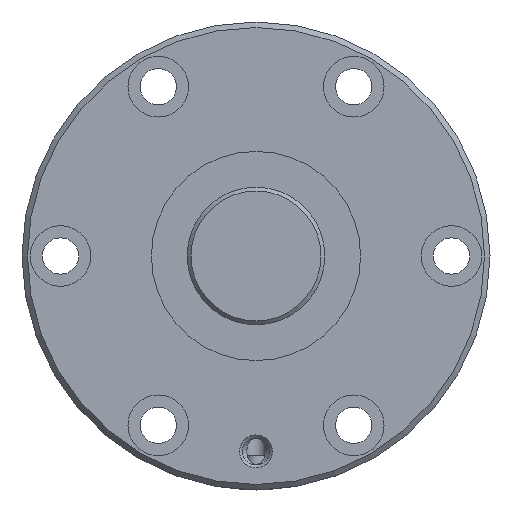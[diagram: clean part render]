
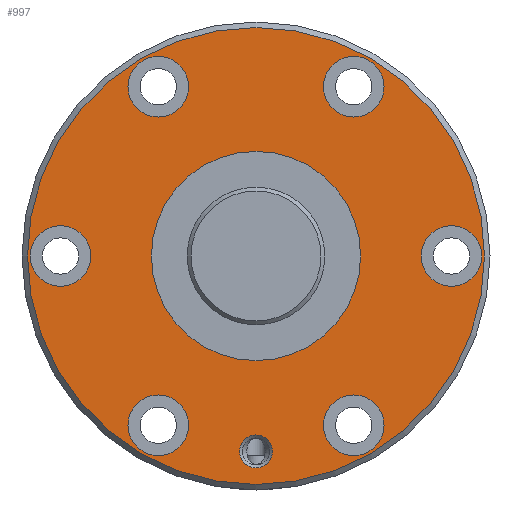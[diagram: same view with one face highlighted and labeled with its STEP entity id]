
A CAD part, left-side view. The second image highlights one B-rep face of the part: STEP entity #997.
In plain terms, the highlighted planar face has unit normal (-1, 0, 0).
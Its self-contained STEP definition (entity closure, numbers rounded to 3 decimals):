
#155=ORIENTED_EDGE('',*,*,#368,.T.);
#156=ORIENTED_EDGE('',*,*,#369,.T.);
#157=ORIENTED_EDGE('',*,*,#370,.T.);
#158=ORIENTED_EDGE('',*,*,#371,.T.);
#159=ORIENTED_EDGE('',*,*,#372,.T.);
#160=ORIENTED_EDGE('',*,*,#373,.T.);
#161=ORIENTED_EDGE('',*,*,#374,.T.);
#162=ORIENTED_EDGE('',*,*,#375,.T.);
#163=ORIENTED_EDGE('',*,*,#367,.F.);
#367=EDGE_CURVE('',#477,#477,#570,.T.);
#368=EDGE_CURVE('',#478,#478,#571,.T.);
#369=EDGE_CURVE('',#479,#479,#572,.F.);
#370=EDGE_CURVE('',#480,#480,#573,.T.);
#371=EDGE_CURVE('',#481,#481,#574,.T.);
#372=EDGE_CURVE('',#482,#482,#575,.T.);
#373=EDGE_CURVE('',#483,#483,#576,.T.);
#374=EDGE_CURVE('',#484,#484,#577,.T.);
#375=EDGE_CURVE('',#485,#485,#578,.T.);
#477=VERTEX_POINT('',#1670);
#478=VERTEX_POINT('',#1673);
#479=VERTEX_POINT('',#1675);
#480=VERTEX_POINT('',#1677);
#481=VERTEX_POINT('',#1679);
#482=VERTEX_POINT('',#1681);
#483=VERTEX_POINT('',#1683);
#484=VERTEX_POINT('',#1685);
#485=VERTEX_POINT('',#1687);
#570=CIRCLE('',#1111,41.5);
#571=CIRCLE('',#1113,19.);
#572=CIRCLE('',#1114,5.5);
#573=CIRCLE('',#1115,3.);
#574=CIRCLE('',#1116,5.5);
#575=CIRCLE('',#1117,5.5);
#576=CIRCLE('',#1118,5.5);
#577=CIRCLE('',#1119,5.5);
#578=CIRCLE('',#1120,5.5);
#658=EDGE_LOOP('',(#155));
#659=EDGE_LOOP('',(#156));
#660=EDGE_LOOP('',(#157));
#661=EDGE_LOOP('',(#158));
#662=EDGE_LOOP('',(#159));
#663=EDGE_LOOP('',(#160));
#664=EDGE_LOOP('',(#161));
#665=EDGE_LOOP('',(#162));
#666=EDGE_LOOP('',(#163));
#818=FACE_BOUND('',#658,.T.);
#819=FACE_BOUND('',#659,.T.);
#820=FACE_BOUND('',#660,.T.);
#821=FACE_BOUND('',#661,.T.);
#822=FACE_BOUND('',#662,.T.);
#823=FACE_BOUND('',#663,.T.);
#824=FACE_BOUND('',#664,.T.);
#825=FACE_BOUND('',#665,.T.);
#826=FACE_BOUND('',#666,.T.);
#960=PLANE('',#1112);
#997=ADVANCED_FACE('',(#818,#819,#820,#821,#822,#823,#824,#825,#826),#960,
 .T.);
#1111=AXIS2_PLACEMENT_3D('',#1669,#1295,#1296);
#1112=AXIS2_PLACEMENT_3D('',#1671,#1297,#1298);
#1113=AXIS2_PLACEMENT_3D('',#1672,#1299,#1300);
#1114=AXIS2_PLACEMENT_3D('',#1674,#1301,#1302);
#1115=AXIS2_PLACEMENT_3D('',#1676,#1303,#1304);
#1116=AXIS2_PLACEMENT_3D('',#1678,#1305,#1306);
#1117=AXIS2_PLACEMENT_3D('',#1680,#1307,#1308);
#1118=AXIS2_PLACEMENT_3D('',#1682,#1309,#1310);
#1119=AXIS2_PLACEMENT_3D('',#1684,#1311,#1312);
#1120=AXIS2_PLACEMENT_3D('',#1686,#1313,#1314);
#1295=DIRECTION('',(1.,0.,0.));
#1296=DIRECTION('',(0.,0.,-1.));
#1297=DIRECTION('',(-1.,0.,0.));
#1298=DIRECTION('',(0.,0.,1.));
#1299=DIRECTION('',(1.,0.,0.));
#1300=DIRECTION('',(0.,0.,-1.));
#1301=DIRECTION('',(-1.,0.,0.));
#1302=DIRECTION('',(0.,0.,1.));
#1303=DIRECTION('',(1.,0.,0.));
#1304=DIRECTION('',(0.,0.,-1.));
#1305=DIRECTION('',(1.,0.,0.));
#1306=DIRECTION('',(0.,0.,-1.));
#1307=DIRECTION('',(1.,0.,0.));
#1308=DIRECTION('',(0.,0.,-1.));
#1309=DIRECTION('',(1.,0.,0.));
#1310=DIRECTION('',(0.,0.,-1.));
#1311=DIRECTION('',(1.,0.,0.));
#1312=DIRECTION('',(0.,0.,-1.));
#1313=DIRECTION('',(1.,0.,0.));
#1314=DIRECTION('',(0.,0.,-1.));
#1669=CARTESIAN_POINT('',(0.,0.,0.));
#1670=CARTESIAN_POINT('',(0.,0.,-41.5));
#1671=CARTESIAN_POINT('',(0.,41.5,0.));
#1672=CARTESIAN_POINT('',(0.,0.,0.));
#1673=CARTESIAN_POINT('',(0.,0.,-19.));
#1674=CARTESIAN_POINT('',(0.,35.5,0.));
#1675=CARTESIAN_POINT('',(0.,35.5,5.5));
#1676=CARTESIAN_POINT('',(0.,0.,-35.5));
#1677=CARTESIAN_POINT('',(0.,0.,-38.5));
#1678=CARTESIAN_POINT('',(0.,-35.5,0.));
#1679=CARTESIAN_POINT('',(0.,-35.5,-5.5));
#1680=CARTESIAN_POINT('',(0.,17.75,30.744));
#1681=CARTESIAN_POINT('',(0.,17.75,25.244));
#1682=CARTESIAN_POINT('',(0.,-17.75,-30.744));
#1683=CARTESIAN_POINT('',(0.,-17.75,-36.244));
#1684=CARTESIAN_POINT('',(0.,-17.75,30.744));
#1685=CARTESIAN_POINT('',(0.,-17.75,25.244));
#1686=CARTESIAN_POINT('',(0.,17.75,-30.744));
#1687=CARTESIAN_POINT('',(0.,17.75,-36.244));
